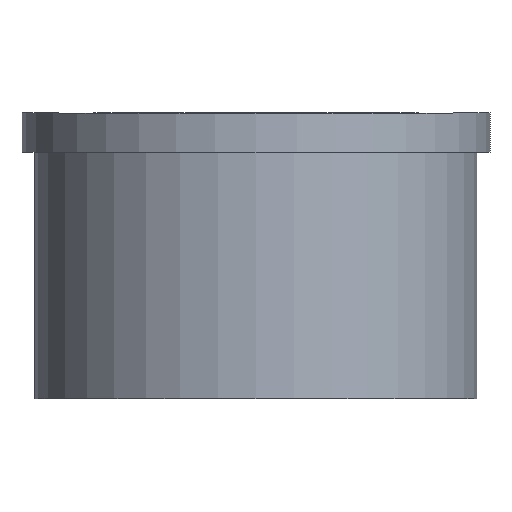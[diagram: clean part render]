
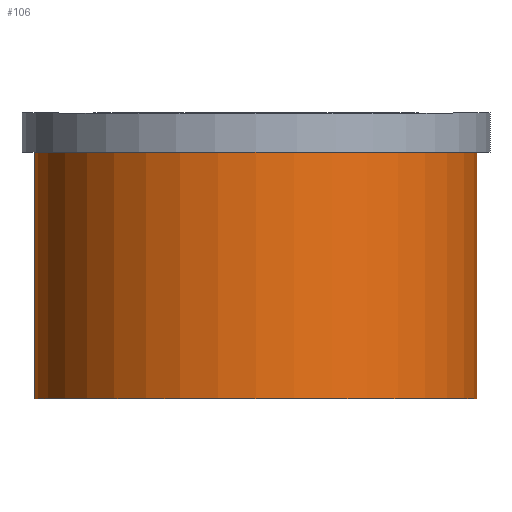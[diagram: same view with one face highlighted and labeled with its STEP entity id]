
A CAD part, front view. The second image highlights one B-rep face of the part: STEP entity #106.
In plain terms, the highlighted cylindrical face has radius 17 mm (diameter 34 mm), a partial arc.
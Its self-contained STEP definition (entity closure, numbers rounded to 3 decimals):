
#106=ADVANCED_FACE('',(#121),#115,.T.);
#115=CYLINDRICAL_SURFACE('',#232,17.);
#121=FACE_OUTER_BOUND('',#127,.T.);
#127=EDGE_LOOP('',(#151,#152,#153,#154));
#139=CIRCLE('',#230,17.);
#140=CIRCLE('',#231,17.);
#151=ORIENTED_EDGE('',*,*,#199,.T.);
#152=ORIENTED_EDGE('',*,*,#200,.F.);
#153=ORIENTED_EDGE('',*,*,#201,.F.);
#154=ORIENTED_EDGE('',*,*,#202,.T.);
#187=VERTEX_POINT('',#303);
#188=VERTEX_POINT('',#304);
#189=VERTEX_POINT('',#306);
#190=VERTEX_POINT('',#308);
#199=EDGE_CURVE('',#187,#188,#217,.T.);
#200=EDGE_CURVE('',#189,#188,#139,.T.);
#201=EDGE_CURVE('',#190,#189,#218,.T.);
#202=EDGE_CURVE('',#190,#187,#140,.T.);
#217=LINE('',#302,#223);
#218=LINE('',#307,#224);
#223=VECTOR('',#253,1.);
#224=VECTOR('',#256,1.);
#230=AXIS2_PLACEMENT_3D('',#305,#254,#255);
#231=AXIS2_PLACEMENT_3D('',#309,#257,#258);
#232=AXIS2_PLACEMENT_3D('',#310,#259,#260);
#253=DIRECTION('',(0.,0.,-1.));
#254=DIRECTION('',(0.,0.,-1.));
#255=DIRECTION('',(0.,1.,0.));
#256=DIRECTION('',(0.,0.,-1.));
#257=DIRECTION('',(0.,0.,-1.));
#258=DIRECTION('',(0.,1.,0.));
#259=DIRECTION('',(0.,0.,-1.));
#260=DIRECTION('',(0.,-1.,0.));
#302=CARTESIAN_POINT('',(-17.,0.,0.));
#303=CARTESIAN_POINT('',(-17.,0.,0.));
#304=CARTESIAN_POINT('',(-17.,0.,-19.));
#305=CARTESIAN_POINT('',(0.,0.,-19.));
#306=CARTESIAN_POINT('',(17.,0.,-19.));
#307=CARTESIAN_POINT('',(17.,0.,0.));
#308=CARTESIAN_POINT('',(17.,0.,0.));
#309=CARTESIAN_POINT('',(0.,0.,0.));
#310=CARTESIAN_POINT('',(0.,0.,0.));
